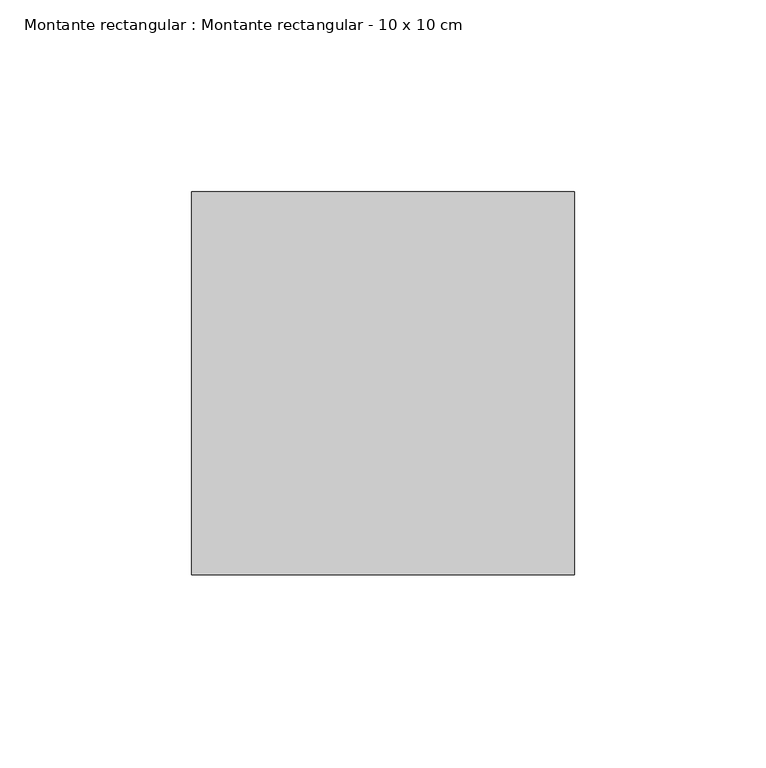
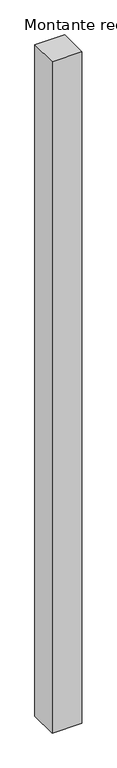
"""IFC4 building model written with IfcOpenShell, lengths in millimetres: member geometry, Montante rectangular : Montante rectangular - 10 x 10 cm."""

from ifc_helpers import new_model, si_unit, frame, origin, place, context, project, spatial, polyline, outline, extrude, source, transform, mapped, element, save


def montante_rectangular_montante_rectangular_10_x_10_cm_89c0dae9(model_context):
    return source(origin(), model_context, "Body", "SweptSolid", [
        extrude(outline(polyline([(0.0, 50.0), (0.0, -50.0), (-100.0, -50.0), (-100.0, 50.0), (0.0, 50.0)])), frame((0.0, 0.0, -2383.4047241), z_axis=(0.0, 0.0, 1.0), x_axis=(1.0, 0.0, 0.0)), (0.0, 0.0, 1.0), 2383.4047241),
    ])


if __name__ == "__main__":
    model = new_model("IFC4")
    model_context = context("Model", 3, world=origin())
    ifc_project = project(units=[si_unit("LENGTHUNIT", "METRE", prefix="MILLI")], contexts=[model_context])
    site = spatial("IfcSite", under=ifc_project)
    building = spatial("IfcBuilding", under=site)
    placement = place(None, origin())
    montante_rectangular_montante_rectangular_10_x_10_cm_shape = montante_rectangular_montante_rectangular_10_x_10_cm_89c0dae9(model_context)
    element("IfcMember", 1, ObjectType="Montante rectangular : Montante rectangular - 10 x 10 cm", at=placement, inside=building, context=model_context, shape_type="MappedRepresentation", body=[
        mapped(montante_rectangular_montante_rectangular_10_x_10_cm_shape, transform((0.0, 0.0, 0.0), x_axis=(1.0, 0.0, 0.0), y_axis=(0.0, 1.0, 0.0), z_axis=(0.0, 0.0, 1.0))),
    ])
    save(model, "model.ifc")
